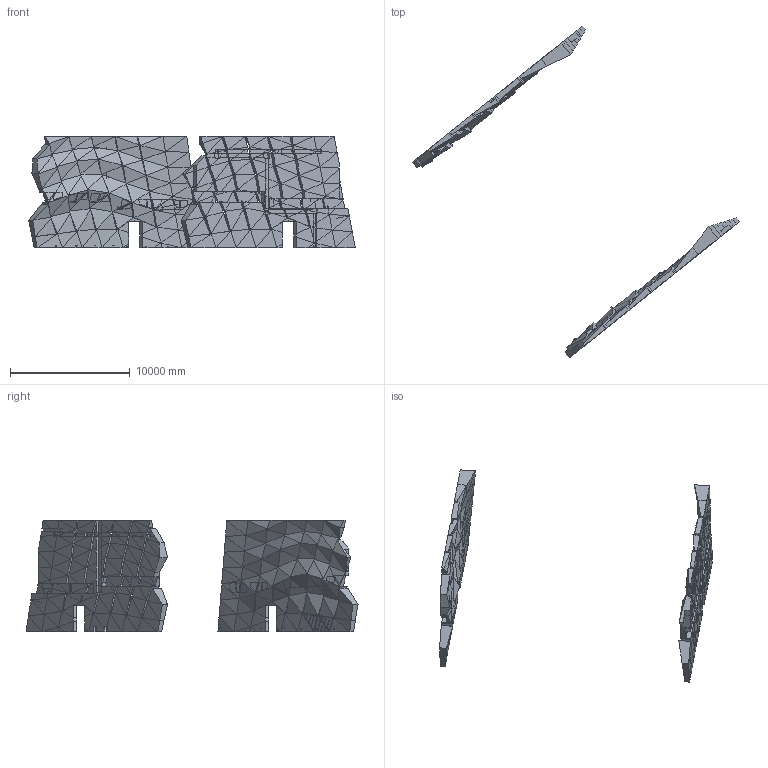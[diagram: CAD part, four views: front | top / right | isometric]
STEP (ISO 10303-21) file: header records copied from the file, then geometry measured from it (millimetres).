
FILE_DESCRIPTION(/* description */ (''),/* implementation_level */ '2;1');
FILE_NAME(/* name */ 'модель каркасов 02.04',/* time_stamp */ '2026-04-02T16:39:16+03:00',/* author */ (''),/* organization */ (''),/* preprocessor_version */ 'ST-DEVELOPER v19.2',/* originating_system */ 'Rhino 8.12',/* authorisation */ '');
FILE_SCHEMA (('AUTOMOTIVE_DESIGN'));
Products named in the file (1): Document
Bounding box: 27261.22 x 27694.67 x 9300.14 mm (x, y, z)
Volume: 128117074639.5 mm3; surface area: 1146926255.1 mm2
Topology: 293 solids, 310 shells, 2508 faces, 5979 edges, 4227 vertices
Faces by surface type: bspline 2508
Entity records: 153595 total; most frequent: CARTESIAN_POINT 74948, B_SPLINE_CURVE_WITH_KNOTS 17484, PCURVE 11500, DEFINITIONAL_REPRESENTATION 11500, ORIENTED_EDGE 11352, SURFACE_CURVE 5857, EDGE_CURVE 5709, VERTEX_POINT 3870
